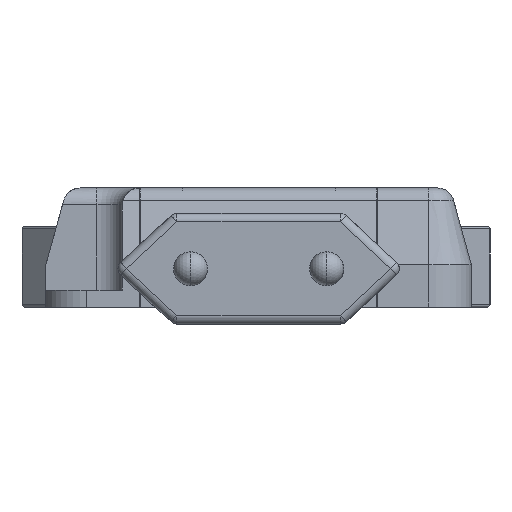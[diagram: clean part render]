
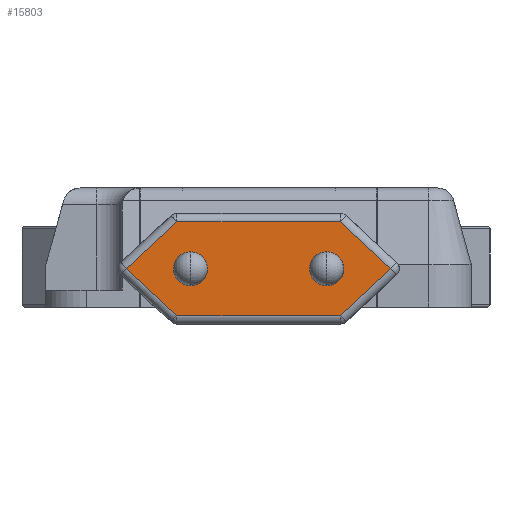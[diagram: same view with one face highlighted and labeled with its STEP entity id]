
A CAD part, left-side view. The second image highlights one B-rep face of the part: STEP entity #15803.
In plain terms, the highlighted planar face has unit normal (-1, 0, 0) as drawn and (0, 0, 1) by its records, which use the part's own axes.
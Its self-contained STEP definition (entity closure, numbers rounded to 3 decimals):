
#128 = CARTESIAN_POINT ( 'NONE',  ( -5.5, -9.607, 68.5 ) ) ;
#398 = ORIENTED_EDGE ( 'NONE', *, *, #13898, .T. ) ;
#490 = VECTOR ( 'NONE', #6033, 1000. ) ;
#680 = DIRECTION ( 'NONE',  ( 1., 0., 0. ) ) ;
#862 = DIRECTION ( 'NONE',  ( 0., 1., 0. ) ) ;
#988 = ORIENTED_EDGE ( 'NONE', *, *, #11221, .F. ) ;
#1954 = ORIENTED_EDGE ( 'NONE', *, *, #16739, .T. ) ;
#1958 = ORIENTED_EDGE ( 'NONE', *, *, #7616, .F. ) ;
#2538 = DIRECTION ( 'NONE',  ( 0., 0., 1. ) ) ;
#2729 = CARTESIAN_POINT ( 'NONE',  ( -1.9, 8., 68.5 ) ) ;
#3111 = EDGE_CURVE ( 'NONE', #7149, #4154, #15610, .T. ) ;
#3202 = EDGE_CURVE ( 'NONE', #12406, #14081, #11749, .T. ) ;
#3503 = EDGE_CURVE ( 'NONE', #7418, #7149, #10011, .T. ) ;
#3530 = ORIENTED_EDGE ( 'NONE', *, *, #15069, .T. ) ;
#3752 = ORIENTED_EDGE ( 'NONE', *, *, #9706, .F. ) ;
#4154 = VERTEX_POINT ( 'NONE', #11458 ) ;
#4279 = DIRECTION ( 'NONE',  ( 1., 0., 0. ) ) ;
#4346 = ORIENTED_EDGE ( 'NONE', *, *, #3111, .T. ) ;
#4852 = EDGE_LOOP ( 'NONE', ( #988, #1958 ) ) ;
#4871 = CIRCLE ( 'NONE', #6835, 1.9 ) ;
#5496 = LINE ( 'NONE', #7257, #5834 ) ;
#5834 = VECTOR ( 'NONE', #8322, 1000. ) ;
#5888 = LINE ( 'NONE', #11014, #16594 ) ;
#6033 = DIRECTION ( 'NONE',  ( 0.68, 0.733, 0. ) ) ;
#6087 = CARTESIAN_POINT ( 'NONE',  ( 0.733, -16.32, 68.5 ) ) ;
#6138 = VECTOR ( 'NONE', #7890, 1000. ) ;
#6408 = DIRECTION ( 'NONE',  ( 0., 0., 1. ) ) ;
#6835 = AXIS2_PLACEMENT_3D ( 'NONE', #11891, #8004, #7920 ) ;
#7031 = CARTESIAN_POINT ( 'NONE',  ( 1.9, -8., 68.5 ) ) ;
#7149 = VERTEX_POINT ( 'NONE', #17420 ) ;
#7257 = CARTESIAN_POINT ( 'NONE',  ( -5.767, 9.32, 68.5 ) ) ;
#7334 = LINE ( 'NONE', #6087, #10701 ) ;
#7418 = VERTEX_POINT ( 'NONE', #15171 ) ;
#7465 = CARTESIAN_POINT ( 'NONE',  ( -15.786, 0., 68.5 ) ) ;
#7558 = DIRECTION ( 'NONE',  ( 0., 0., 1. ) ) ;
#7616 = EDGE_CURVE ( 'NONE', #13962, #11854, #7952, .T. ) ;
#7823 = DIRECTION ( 'NONE',  ( -1., 0., 0. ) ) ;
#7860 = VERTEX_POINT ( 'NONE', #12477 ) ;
#7890 = DIRECTION ( 'NONE',  ( -0.68, 0.733, 0. ) ) ;
#7920 = DIRECTION ( 'NONE',  ( -1., 0., 0. ) ) ;
#7952 = CIRCLE ( 'NONE', #15014, 1.9 ) ;
#7972 = CARTESIAN_POINT ( 'NONE',  ( -0.733, 16.32, 68.5 ) ) ;
#8004 = DIRECTION ( 'NONE',  ( 0., 0., 1. ) ) ;
#8322 = DIRECTION ( 'NONE',  ( -0.68, -0.733, 0. ) ) ;
#8340 = DIRECTION ( 'NONE',  ( 0., 0., 1. ) ) ;
#8469 = ORIENTED_EDGE ( 'NONE', *, *, #3503, .T. ) ;
#8654 = AXIS2_PLACEMENT_3D ( 'NONE', #10380, #2538, #7823 ) ;
#8752 = ORIENTED_EDGE ( 'NONE', *, *, #15691, .T. ) ;
#8801 = FACE_OUTER_BOUND ( 'NONE', #16631, .T. ) ;
#9282 = ORIENTED_EDGE ( 'NONE', *, *, #3202, .F. ) ;
#9706 = EDGE_CURVE ( 'NONE', #14081, #12406, #4871, .T. ) ;
#10011 = LINE ( 'NONE', #11601, #490 ) ;
#10210 = DIRECTION ( 'NONE',  ( 1., 0., 0. ) ) ;
#10380 = CARTESIAN_POINT ( 'NONE',  ( 0., -8., 68.5 ) ) ;
#10439 = LINE ( 'NONE', #7972, #6138 ) ;
#10673 = VERTEX_POINT ( 'NONE', #14741 ) ;
#10701 = VECTOR ( 'NONE', #11385, 1000. ) ;
#11014 = CARTESIAN_POINT ( 'NONE',  ( -5.5, -10., 68.5 ) ) ;
#11221 = EDGE_CURVE ( 'NONE', #11854, #13962, #15375, .T. ) ;
#11385 = DIRECTION ( 'NONE',  ( 0.68, -0.733, 0. ) ) ;
#11458 = CARTESIAN_POINT ( 'NONE',  ( 5.5, 9.607, 68.5 ) ) ;
#11542 = PLANE ( 'NONE',  #16050 ) ;
#11601 = CARTESIAN_POINT ( 'NONE',  ( 5.767, -9.32, 68.5 ) ) ;
#11749 = CIRCLE ( 'NONE', #8654, 1.9 ) ;
#11854 = VERTEX_POINT ( 'NONE', #2729 ) ;
#11891 = CARTESIAN_POINT ( 'NONE',  ( 0., -8., 68.5 ) ) ;
#12406 = VERTEX_POINT ( 'NONE', #7031 ) ;
#12477 = CARTESIAN_POINT ( 'NONE',  ( 0., 15.53, 68.5 ) ) ;
#12843 = AXIS2_PLACEMENT_3D ( 'NONE', #16398, #8340, #4279 ) ;
#13127 = FACE_BOUND ( 'NONE', #4852, .T. ) ;
#13237 = EDGE_LOOP ( 'NONE', ( #3752, #9282 ) ) ;
#13720 = CARTESIAN_POINT ( 'NONE',  ( 1.9, 8., 68.5 ) ) ;
#13898 = EDGE_CURVE ( 'NONE', #7860, #10673, #5496, .T. ) ;
#13962 = VERTEX_POINT ( 'NONE', #13720 ) ;
#14081 = VERTEX_POINT ( 'NONE', #15567 ) ;
#14190 = FACE_BOUND ( 'NONE', #13237, .T. ) ;
#14741 = CARTESIAN_POINT ( 'NONE',  ( -5.5, 9.607, 68.5 ) ) ;
#15014 = AXIS2_PLACEMENT_3D ( 'NONE', #16848, #7558, #680 ) ;
#15069 = EDGE_CURVE ( 'NONE', #4154, #7860, #10439, .T. ) ;
#15134 = VECTOR ( 'NONE', #862, 1000. ) ;
#15171 = CARTESIAN_POINT ( 'NONE',  ( 0., -15.53, 68.5 ) ) ;
#15242 = VERTEX_POINT ( 'NONE', #128 ) ;
#15375 = CIRCLE ( 'NONE', #12843, 1.9 ) ;
#15567 = CARTESIAN_POINT ( 'NONE',  ( -1.9, -8., 68.5 ) ) ;
#15610 = LINE ( 'NONE', #16946, #15134 ) ;
#15691 = EDGE_CURVE ( 'NONE', #10673, #15242, #5888, .T. ) ;
#15803 = ADVANCED_FACE ( 'NONE', ( #8801, #13127, #14190 ), #11542, .T. ) ;
#16050 = AXIS2_PLACEMENT_3D ( 'NONE', #7465, #6408, #10210 ) ;
#16398 = CARTESIAN_POINT ( 'NONE',  ( 0., 8., 68.5 ) ) ;
#16594 = VECTOR ( 'NONE', #16674, 1000. ) ;
#16631 = EDGE_LOOP ( 'NONE', ( #8469, #4346, #3530, #398, #8752, #1954 ) ) ;
#16674 = DIRECTION ( 'NONE',  ( 0., -1., 0. ) ) ;
#16739 = EDGE_CURVE ( 'NONE', #15242, #7418, #7334, .T. ) ;
#16848 = CARTESIAN_POINT ( 'NONE',  ( 0., 8., 68.5 ) ) ;
#16946 = CARTESIAN_POINT ( 'NONE',  ( 5.5, 10., 68.5 ) ) ;
#17420 = CARTESIAN_POINT ( 'NONE',  ( 5.5, -9.607, 68.5 ) ) ;
